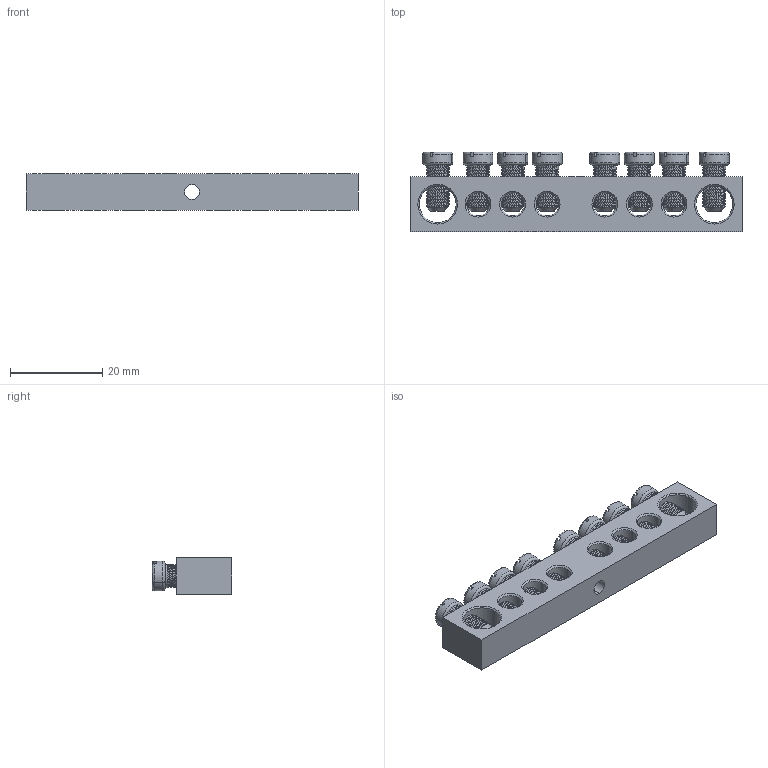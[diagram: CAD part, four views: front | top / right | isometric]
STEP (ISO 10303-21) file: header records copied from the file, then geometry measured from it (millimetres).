
FILE_DESCRIPTION (( 'STEP AP214' ), '1' );
FILE_NAME ('Øèíà íóëåâàÿ ñ êðåïåæíûì îòâåðñòèåì ïî öåíòðó 8õ12 8-1.STEP', '2020-02-07T06:04:36', ( '' ), ( '' ), 'SwSTEP 2.0', 'SolidWorks 2018', '' );
FILE_SCHEMA (( 'AUTOMOTIVE_DESIGN' ));
Length unit declared in the file: millimetre
Products named in the file (3): Âèíò ì5; Øèíà 8õ12 8 1; Øèíà íóëåâàÿ ñ êðåïåæíûì îòâåðñòèåì ïî öåíòðó 8õ12 8-1
Assembly tree (9 placements, depth 2):
  Øèíà íóëåâàÿ ñ êðåïåæíûì îòâåðñòèåì ïî öåíòðó 8õ12 8-1
    Øèíà 8õ12 8 1
    Âèíò ì5  x8
Bounding box: 72 x 17.3 x 8 mm (x, y, z)
Volume: 6740.4 mm3; surface area: 6647.1 mm2
Topology: 9 solids, 9 shells, 672 faces, 1858 edges, 1196 vertices
Faces by surface type: cylinder 258, plane 222, cone 112, torus 56, bspline 24
Entity records: 7207 total; most frequent: CARTESIAN_POINT 3343, ORIENTED_EDGE 772, DIRECTION 711, EDGE_CURVE 386, AXIS2_PLACEMENT_3D 277, VERTEX_POINT 244, EDGE_LOOP 182, VECTOR 157
